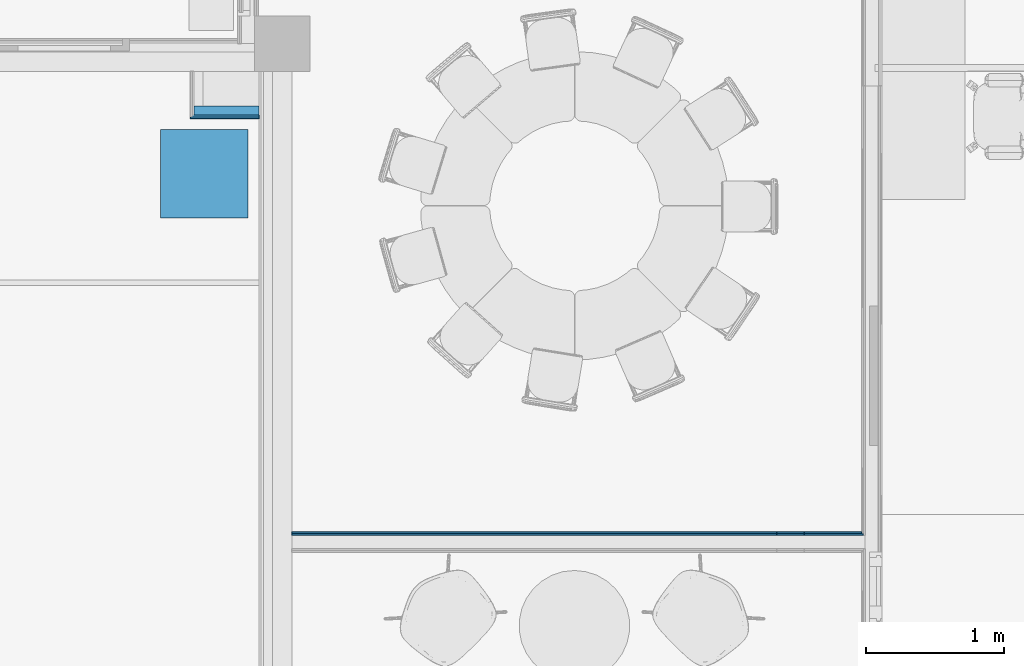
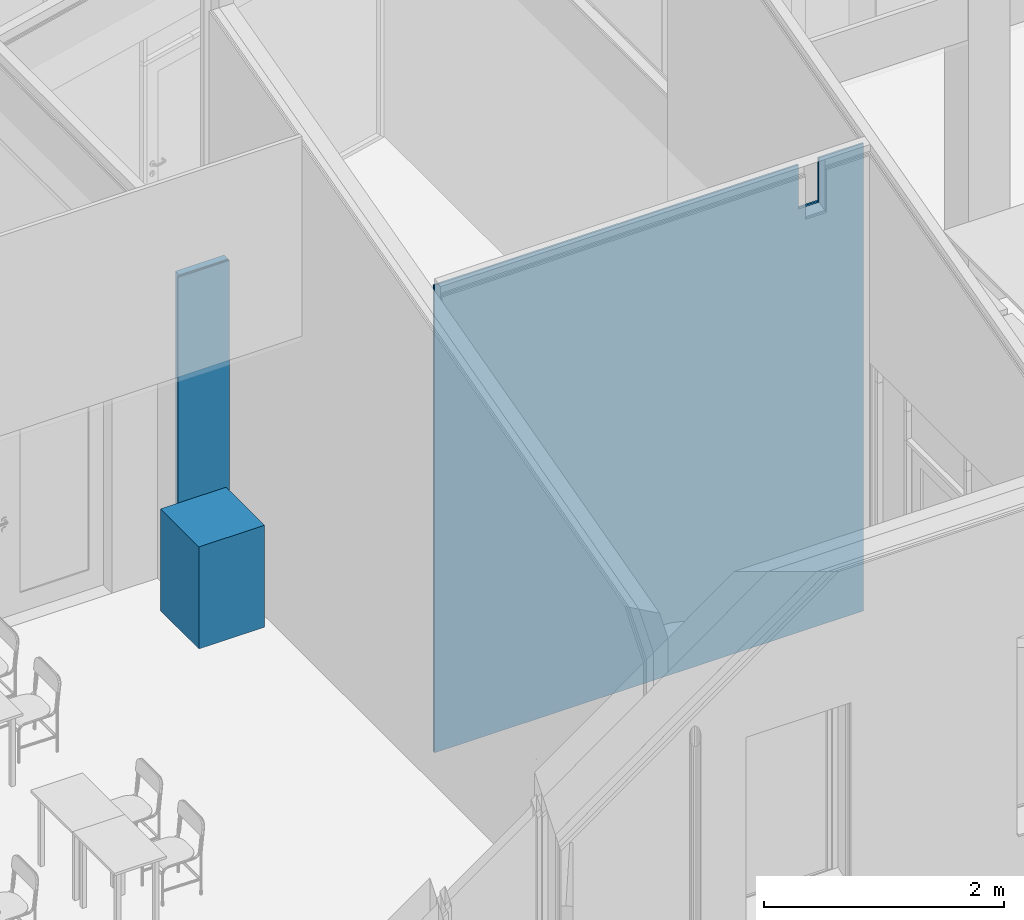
# One storey, part 68 of 153: 5 building element parts, 1 discrete accessory, 2 elements without a shape of their own.
"""IFC2X3 building model written with IfcOpenShell, lengths in millimetres."""

from ifc_helpers import new_model, entity, si_unit, converted_unit, derived_unit, money_unit, direction, frame, origin_with_axes, place, context, subcontext, project, spatial, faceted_brep, material, type_object, element, aggregate, save


model = new_model("IFC2X3")

# Units and contexts
model_context = context("Model", 3, precision=0.01, world=origin_with_axes(), true_north=direction((0.0, 1.0)))
body_context = subcontext(model_context, "Body", "Model", "MODEL_VIEW")
ifc_project = project(units=[si_unit("LENGTHUNIT", "METRE", prefix="MILLI"), si_unit("AREAUNIT", "SQUARE_METRE"), si_unit("VOLUMEUNIT", "CUBIC_METRE"), converted_unit("PLANEANGLEUNIT", "DEGREE", entity("IfcPlaneAngleMeasure", 0.0174532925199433), si_unit("PLANEANGLEUNIT", "RADIAN"), dimensions=[0, 0, 0, 0, 0, 0, 0]), money_unit("EUR"), converted_unit("TIMEUNIT", "Year", entity("IfcTimeMeasure", 31557600.0), si_unit("TIMEUNIT", "SECOND"), dimensions=[0, 0, 1, 0, 0, 0, 0]), si_unit("MASSUNIT", "GRAM", prefix="KILO"), si_unit("THERMODYNAMICTEMPERATUREUNIT", "DEGREE_CELSIUS"), si_unit("LUMINOUSINTENSITYUNIT", "LUMEN"), si_unit("ENERGYUNIT", "JOULE", prefix="MEGA"), derived_unit("THERMALCONDUCTANCEUNIT", [(si_unit("POWERUNIT", "WATT"), 1), (si_unit("LENGTHUNIT", "METRE"), -1), (si_unit("THERMODYNAMICTEMPERATUREUNIT", "KELVIN"), -1)]), derived_unit("SPECIFICHEATCAPACITYUNIT", [(si_unit("ENERGYUNIT", "JOULE"), 1), (si_unit("MASSUNIT", "GRAM", prefix="KILO"), -1), (si_unit("THERMODYNAMICTEMPERATUREUNIT", "KELVIN"), -1)]), derived_unit("MASSDENSITYUNIT", [(si_unit("MASSUNIT", "GRAM", prefix="KILO"), 1), (si_unit("VOLUMEUNIT", "CUBIC_METRE"), -1)])], contexts=[model_context])

# Site, building, storey
site_placement = place(None, frame((0.0, 0.0, 8650.0), z_axis=(0.0, 0.0, 1.0), x_axis=(1.0, 0.0, 0.0)))
site = spatial("IfcSite", under=ifc_project, at=site_placement, Name="43301:001:0844", CompositionType="ELEMENT")
building_placement = place(site_placement, origin_with_axes())
building = spatial("IfcBuilding", under=site, at=building_placement, Name="Kuressaare Ametikooli tuulikute mehaanikute õppekorpus", CompositionType="ELEMENT")
storey_placement = place(building_placement, frame((0.0, 0.0, 4100.0), z_axis=(0.0, 0.0, 1.0), x_axis=(1.0, 0.0, 0.0)))
storey = spatial("IfcBuildingStorey", under=building, at=storey_placement, Name="2.korrus", CompositionType="ELEMENT", Elevation=4100.0)

# Discrete accessory
discrete_accessory_type = type_object("IfcDiscreteAccessoryType", Name="Cube 27")
discrete_accessory_placement = place(storey_placement, frame((118321.4595346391, 15312.13012336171, 0.0), z_axis=(0.0, 0.0, 1.0), x_axis=(0.0, 1.0, 0.0)))
element("IfcDiscreteAccessory", 1, at=discrete_accessory_placement, inside=storey, type_object=discrete_accessory_type, Name="LK", context=body_context, shape_type="Brep", body=[
    faceted_brep([(640.0, 0.0, 0.0), (0.0, 0.0, 0.0), (0.0, 632.0, 0.0), (640.0, 632.0, 0.0), (640.0, 0.0, 1040.0), (0.0, 0.0, 1040.0), (0.0, 632.0, 1040.0), (640.0, 632.0, 1040.0)], [[[0, 1, 2, 3]], [[1, 0, 4, 5]], [[2, 1, 5, 6]], [[3, 2, 6, 7]], [[0, 3, 7, 4]], [[5, 4, 7, 6]]]),
])

# Wall, building element parts
wall_type_1 = type_object("IfcWallType", Name="SS-2.2 147", PredefinedType="NOTDEFINED")
wall_1_placement = place(storey_placement, frame((122757.3962682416, 12897.93578488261, 0.0), z_axis=(0.0, 0.0, 1.0), x_axis=(-1.0, 0.0, 0.0)))
wall_1 = element("IfcWall", 2, at=wall_1_placement, inside=storey, type_object=wall_type_1, Name="Sisesein")
ifc_material_1 = material(Name="Kipsplaat")
building_element_part_1_placement = place(wall_1_placement, origin_with_axes())
building_element_part_1 = element("IfcBuildingElementPart", 3, at=building_element_part_1_placement, material=ifc_material_1, Name="Kipsplaat", context=body_context, shape_type="Brep", body=[
    faceted_brep([(414.4496967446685, -134.0000000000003, 4768.909954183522), (-13.00000000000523, -134.0000000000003, 4768.90993883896), (-13.00000000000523, -134.0000000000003, 0.0), (4119.449624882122, -134.0000000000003, 0.0), (4119.449624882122, -134.0000000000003, 4768.910087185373), (614.4496967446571, -134.0000000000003, 4768.909961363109), (614.4496967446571, -134.0000000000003, 4318.154707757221), (414.4496967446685, -134.0000000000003, 4318.154707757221), (-13.00000000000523, -121.0000000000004, 4765.426599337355), (414.4496967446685, -121.0000000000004, 4765.426614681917), (-13.00000000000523, -121.0000000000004, 0.0), (4119.449624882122, -121.0000000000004, 0.0), (4119.449624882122, -121.0000000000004, 4765.42674768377), (614.4496967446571, -121.0000000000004, 4765.426621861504), (614.4496967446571, -121.0000000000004, 4314.671369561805), (414.4496967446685, -121.0000000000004, 4314.671369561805)], [[[0, 1, 2, 3, 4, 5, 6, 7]], [[8, 1, 0, 9]], [[1, 8, 10, 2]], [[10, 11, 3, 2]], [[12, 4, 3, 11]], [[13, 5, 4, 12]], [[5, 13, 14, 6]], [[15, 7, 6, 14]], [[9, 0, 7, 15]], [[8, 9, 15, 14, 13, 12, 11, 10]]]),
])
building_element_part_2_placement = place(wall_1_placement, origin_with_axes())
building_element_part_2 = element("IfcBuildingElementPart", 4, at=building_element_part_2_placement, material=ifc_material_1, Name="Kipsplaat", context=body_context, shape_type="Brep", body=[
    faceted_brep([(414.4496967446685, -147.0000000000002, 4756.864150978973), (0.0, -147.0000000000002, 4756.864136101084), (0.0, -147.0000000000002, 0.0), (4119.449624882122, -147.0000000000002, 0.0), (4119.449624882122, -147.0000000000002, 4756.864283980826), (614.4496967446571, -147.0000000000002, 4756.86415815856), (614.4496967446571, -147.0000000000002, 4321.638045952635), (414.4496967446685, -147.0000000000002, 4321.638045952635), (0.0, -134.0000000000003, 4753.380796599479), (414.4496967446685, -134.0000000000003, 4753.380811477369), (0.0, -134.0000000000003, 0.0), (4119.449624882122, -134.0000000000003, 0.0), (4119.449624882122, -134.0000000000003, 4753.380944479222), (614.4496967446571, -134.0000000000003, 4753.380818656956), (614.4496967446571, -134.0000000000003, 4318.154707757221), (414.4496967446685, -134.0000000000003, 4318.154707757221)], [[[0, 1, 2, 3, 4, 5, 6, 7]], [[8, 1, 0, 9]], [[1, 8, 10, 2]], [[10, 11, 3, 2]], [[12, 4, 3, 11]], [[13, 5, 4, 12]], [[5, 13, 14, 6]], [[15, 7, 6, 14]], [[9, 0, 7, 15]], [[8, 9, 15, 14, 13, 12, 11, 10]]]),
])
aggregate(wall_1, [building_element_part_1, building_element_part_2])

wall_type_2 = type_object("IfcWallType", Name="SS-2.4 92", PredefinedType="NOTDEFINED")
wall_2_placement = place(storey_placement, frame((118401.9466433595, 16124.04684020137, 0.0), z_axis=(0.0, 0.0, 1.0), x_axis=(-1.0, 0.0, 0.0)))
wall_2 = element("IfcWall", 5, at=wall_2_placement, inside=storey, type_object=wall_type_2, Name="Sisesein")
ifc_material_2 = material(Name="Plaster - Gypsum")
building_element_part_3_placement = place(wall_2_placement, origin_with_axes())
building_element_part_3 = element("IfcBuildingElementPart", 6, at=building_element_part_3_placement, material=ifc_material_2, Name="Plaster - Gypsum", context=body_context, shape_type="Brep", body=[
    faceted_brep([(496.9999600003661, 79.00000000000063, 3274.255703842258), (496.9999581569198, 91.99999999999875, 3274.255703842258), (0.0, 91.99999999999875, 3274.255703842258), (0.0, 79.00000000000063, 3274.255703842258), (496.9999600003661, 79.00000000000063, 0.0), (496.9999581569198, 91.99999999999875, 0.0), (0.0, 91.99999999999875, 0.0), (0.0, 79.00000000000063, 0.0)], [[[0, 1, 2, 3]], [[1, 0, 4, 5]], [[1, 5, 6, 2]], [[7, 3, 2, 6]], [[4, 0, 3, 7]], [[5, 4, 7, 6]]]),
])
ifc_material_3 = material(Name="Air Space - Frame")
building_element_part_4_placement = place(wall_2_placement, origin_with_axes())
building_element_part_4 = element("IfcBuildingElementPart", 7, at=building_element_part_4_placement, material=ifc_material_3, Name="Air Space - Frame", context=body_context, shape_type="Brep", body=[
    faceted_brep([(470.9999712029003, 0.0, 3274.255703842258), (470.9999618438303, 65.99999999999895, 3274.255703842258), (0.0, 65.99999999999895, 3274.255703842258), (0.0, 0.0, 3274.255703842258), (470.9999712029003, 0.0, 0.0), (470.9999618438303, 65.99999999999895, 0.0), (0.0, 65.99999999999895, 0.0), (0.0, 0.0, 0.0)], [[[0, 1, 2, 3]], [[1, 0, 4, 5]], [[1, 5, 6, 2]], [[7, 3, 2, 6]], [[4, 0, 3, 7]], [[5, 4, 7, 6]]]),
])
ifc_material_4 = material(Name="Plywood")
building_element_part_5_placement = place(wall_2_placement, origin_with_axes())
building_element_part_5 = element("IfcBuildingElementPart", 8, at=building_element_part_5_placement, material=ifc_material_4, Name="Plywood", context=body_context, shape_type="Brep", body=[
    faceted_brep([(483.9999618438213, 65.99999999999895, 3274.255703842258), (483.9999600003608, 79.00000000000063, 3274.255703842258), (0.0, 79.00000000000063, 3274.255703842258), (0.0, 65.99999999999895, 3274.255703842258), (483.9999618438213, 65.99999999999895, 0.0), (483.9999600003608, 79.00000000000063, 0.0), (0.0, 79.00000000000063, 0.0), (0.0, 65.99999999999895, 0.0)], [[[0, 1, 2, 3]], [[1, 0, 4, 5]], [[1, 5, 6, 2]], [[7, 3, 2, 6]], [[4, 0, 3, 7]], [[5, 4, 7, 6]]]),
])
aggregate(wall_2, [building_element_part_3, building_element_part_4, building_element_part_5])

save(model, "model.ifc")
